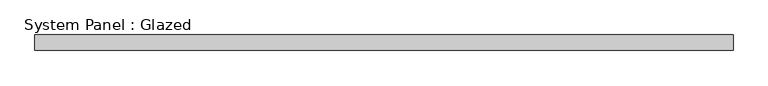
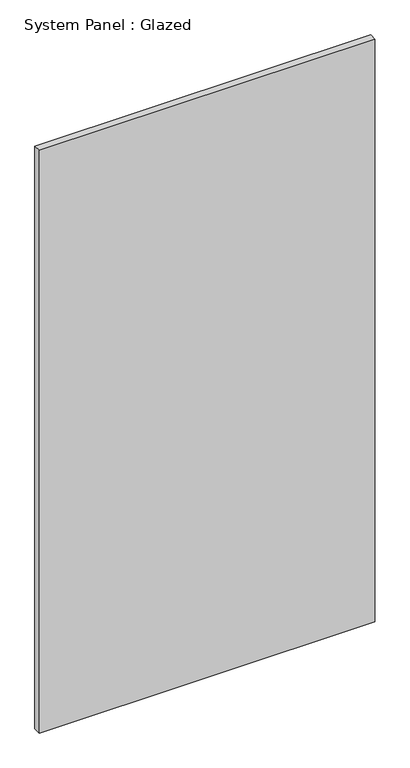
"""IFC4 building model written with IfcOpenShell, lengths in millimetres: plate geometry, System Panel : Glazed."""

from ifc_helpers import new_model, si_unit, origin, origin_with_axes, place, context, project, spatial, polyline, outline, extrude, source, transform, mapped, element, save


def system_panel_glazed_40405178(model_context):
    return source(origin(), model_context, "Body", "SweptSolid", [
        extrude(outline(polyline([(560.9875, -49.5), (-560.9875, -49.5), (-560.9875, -24.5), (560.9875, -24.5), (560.9875, -49.5)])), origin_with_axes(), (0.0, 0.0, 1.0), 2058.6),
    ])


if __name__ == "__main__":
    model = new_model("IFC4")
    model_context = context("Model", 3, world=origin())
    ifc_project = project(units=[si_unit("LENGTHUNIT", "METRE", prefix="MILLI")], contexts=[model_context])
    site = spatial("IfcSite", under=ifc_project)
    building = spatial("IfcBuilding", under=site)
    placement = place(None, origin())
    system_panel_glazed_shape = system_panel_glazed_40405178(model_context)
    element("IfcPlate", 1, ObjectType="System Panel : Glazed", at=placement, inside=building, context=model_context, shape_type="MappedRepresentation", body=[
        mapped(system_panel_glazed_shape, transform((0.0, 0.0, 0.0), x_axis=(1.0, 0.0, 0.0), y_axis=(0.0, 1.0, 0.0), z_axis=(0.0, 0.0, 1.0))),
    ])
    save(model, "model.ifc")
